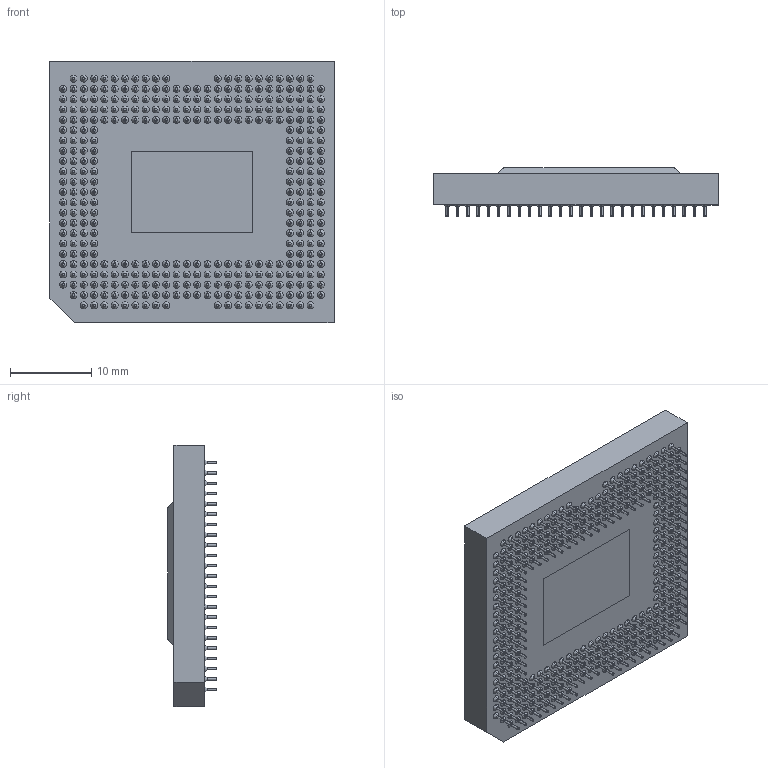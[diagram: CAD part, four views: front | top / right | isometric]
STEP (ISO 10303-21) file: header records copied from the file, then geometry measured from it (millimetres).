
FILE_DESCRIPTION (( 'STEP AP214' ), '1' );
FILE_NAME ('s610-HB-67-DLP670S-DMD.STEP', '2020-03-02T14:16:21', ( 'TI User' ), ( 'Texas Instruments, Inc' ), 'SwSTEP 2.0', 'SolidWorks 2017', '' );
FILE_SCHEMA (( 'AUTOMOTIVE_DESIGN' ));
Length unit declared in the file: millimetre
Products named in the file (4): s610-HB-67-DLP670S-Window; s610-HB-67DLP670S-Ceramic; s610-SymbolizePad; s610-HB-67-DLP670S-DMD
Assembly tree (3 placements, depth 2):
  s610-HB-67-DLP670S-DMD
    s610-HB-67DLP670S-Ceramic
    s610-HB-67-DLP670S-Window
    s610-SymbolizePad
Bounding box: 35 x 5.96 x 32.2 mm (x, y, z)
Volume: 4308.6 mm3; surface area: 4656.9 mm2
Topology: 3 solids, 3 shells, 1824 faces, 3669 edges, 2210 vertices
Faces by surface type: cylinder 714, cone 700, plane 410
Entity records: 67258 total; most frequent: DIRECTION 9457, CARTESIAN_POINT 7709, ORIENTED_EDGE 7338, AXIS2_PLACEMENT_3D 3958, EDGE_CURVE 3669, VERTEX_POINT 2210, EDGE_LOOP 2183, CIRCLE 2128
